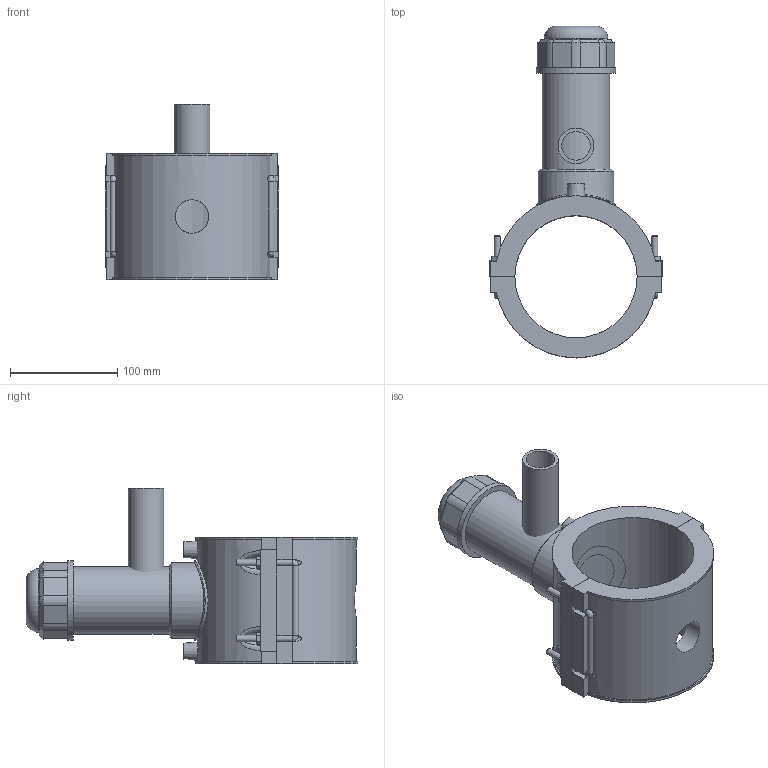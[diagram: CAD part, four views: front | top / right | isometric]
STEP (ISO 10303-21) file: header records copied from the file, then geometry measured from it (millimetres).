
FILE_DESCRIPTION(/* description */ ('PLASSON TAPPING SADDLE 4''''IPS x 1''''IPS'),/* implementation_level */ '2;1');
FILE_NAME(/* name */ 'C:\Dropbox\KIMPROJECTS-Inventor 2019\99-16-3568-Processing Inch\ASTM ElectroFusion 2021\5963BBP_5963BUP\5963BBP3040010.ipt.stp',/* time_stamp */ '2021-08-30T09:57:05+03:00',/* author */ ('KIM'),/* organization */ (''),/* preprocessor_version */ 'ST-DEVELOPER v17.2',/* originating_system */ 'Autodesk Inventor 2019',/* authorisation */ '');
FILE_SCHEMA (('AUTOMOTIVE_DESIGN { 1 0 10303 214 3 1 1 }'));
Length unit declared in the file: inch
Products named in the file (1): 5963BBP3040010
Bounding box: 161 x 309.74 x 163.96 mm (x, y, z)
Volume: 1246098 mm3; surface area: 225162.1 mm2
Topology: 3 solids, 3 shells, 195 faces, 500 edges, 321 vertices
Faces by surface type: plane 112, cylinder 54, cone 15, bspline 13, torus 1
Full cylindrical faces by diameter (mm): 4 x2, 6 x8, 10 x2, 26.64 x1, 31.36 x1, 33.3 x1, 51.915 x1, 59.332 x1, 63.04 x1, 70.457 x1, 74.165 x2
Entity records: 7084 total; most frequent: CARTESIAN_POINT 2337, ORIENTED_EDGE 984, DIRECTION 951, EDGE_CURVE 492, AXIS2_PLACEMENT_3D 325, VERTEX_POINT 321, LINE 301, VECTOR 301
